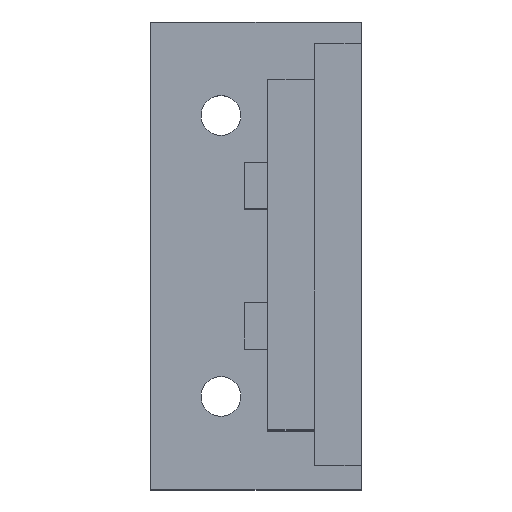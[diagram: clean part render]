
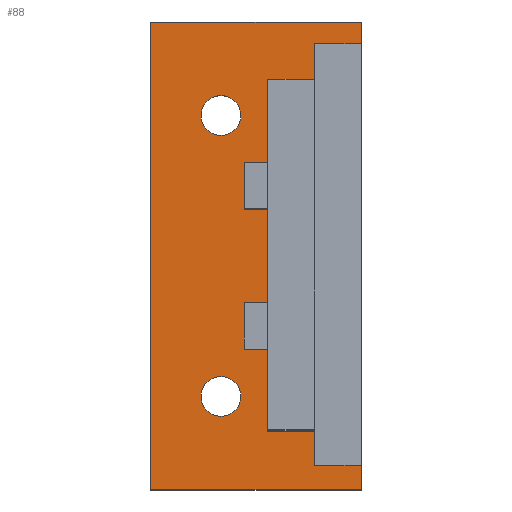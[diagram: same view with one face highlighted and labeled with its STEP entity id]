
A CAD part, top view. The second image highlights one B-rep face of the part: STEP entity #88.
In plain terms, the highlighted planar face has unit normal (0, 0, 1).
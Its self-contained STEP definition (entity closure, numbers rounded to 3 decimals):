
#24 = VERTEX_POINT('',#25);
#25 = CARTESIAN_POINT('',(0.,0.,4.));
#40 = VERTEX_POINT('',#41);
#41 = CARTESIAN_POINT('',(0.,40.,4.));
#47 = EDGE_CURVE('',#24,#40,#48,.T.);
#48 = LINE('',#49,#50);
#49 = CARTESIAN_POINT('',(0.,0.,4.));
#50 = VECTOR('',#51,1.);
#51 = DIRECTION('',(-0.,1.,0.));
#70 = EDGE_CURVE('',#24,#71,#73,.T.);
#71 = VERTEX_POINT('',#72);
#72 = CARTESIAN_POINT('',(18.,0.,4.));
#73 = LINE('',#74,#75);
#74 = CARTESIAN_POINT('',(0.,0.,4.));
#75 = VECTOR('',#76,1.);
#76 = DIRECTION('',(1.,0.,-0.));
#88 = ADVANCED_FACE('',(#89,#107,#118,#129),#227,.T.);
#89 = FACE_BOUND('',#90,.T.);
#90 = EDGE_LOOP('',(#91,#92,#93,#101));
#91 = ORIENTED_EDGE('',*,*,#47,.F.);
#92 = ORIENTED_EDGE('',*,*,#70,.T.);
#93 = ORIENTED_EDGE('',*,*,#94,.T.);
#94 = EDGE_CURVE('',#71,#95,#97,.T.);
#95 = VERTEX_POINT('',#96);
#96 = CARTESIAN_POINT('',(18.,40.,4.));
#97 = LINE('',#98,#99);
#98 = CARTESIAN_POINT('',(18.,0.,4.));
#99 = VECTOR('',#100,1.);
#100 = DIRECTION('',(-0.,1.,0.));
#101 = ORIENTED_EDGE('',*,*,#102,.F.);
#102 = EDGE_CURVE('',#40,#95,#103,.T.);
#103 = LINE('',#104,#105);
#104 = CARTESIAN_POINT('',(0.,40.,4.));
#105 = VECTOR('',#106,1.);
#106 = DIRECTION('',(1.,0.,-0.));
#107 = FACE_BOUND('',#108,.T.);
#108 = EDGE_LOOP('',(#109));
#109 = ORIENTED_EDGE('',*,*,#110,.F.);
#110 = EDGE_CURVE('',#111,#111,#113,.T.);
#111 = VERTEX_POINT('',#112);
#112 = CARTESIAN_POINT('',(7.7,8.,4.));
#113 = CIRCLE('',#114,1.7);
#114 = AXIS2_PLACEMENT_3D('',#115,#116,#117);
#115 = CARTESIAN_POINT('',(6.,8.,4.));
#116 = DIRECTION('',(0.,0.,1.));
#117 = DIRECTION('',(1.,0.,-0.));
#118 = FACE_BOUND('',#119,.T.);
#119 = EDGE_LOOP('',(#120));
#120 = ORIENTED_EDGE('',*,*,#121,.F.);
#121 = EDGE_CURVE('',#122,#122,#124,.T.);
#122 = VERTEX_POINT('',#123);
#123 = CARTESIAN_POINT('',(7.7,32.,4.));
#124 = CIRCLE('',#125,1.7);
#125 = AXIS2_PLACEMENT_3D('',#126,#127,#128);
#126 = CARTESIAN_POINT('',(6.,32.,4.));
#127 = DIRECTION('',(0.,0.,1.));
#128 = DIRECTION('',(1.,0.,-0.));
#129 = FACE_BOUND('',#130,.T.);
#130 = EDGE_LOOP('',(#131,#141,#149,#157,#165,#173,#181,#189,#197,#205,
    #213,#221));
#131 = ORIENTED_EDGE('',*,*,#132,.F.);
#132 = EDGE_CURVE('',#133,#135,#137,.T.);
#133 = VERTEX_POINT('',#134);
#134 = CARTESIAN_POINT('',(10.,5.,4.));
#135 = VERTEX_POINT('',#136);
#136 = CARTESIAN_POINT('',(16.,5.,4.));
#137 = LINE('',#138,#139);
#138 = CARTESIAN_POINT('',(14.,5.,4.));
#139 = VECTOR('',#140,1.);
#140 = DIRECTION('',(1.,0.,0.));
#141 = ORIENTED_EDGE('',*,*,#142,.T.);
#142 = EDGE_CURVE('',#133,#143,#145,.T.);
#143 = VERTEX_POINT('',#144);
#144 = CARTESIAN_POINT('',(10.,12.,4.));
#145 = LINE('',#146,#147);
#146 = CARTESIAN_POINT('',(10.,2.5,4.));
#147 = VECTOR('',#148,1.);
#148 = DIRECTION('',(-0.,1.,0.));
#149 = ORIENTED_EDGE('',*,*,#150,.T.);
#150 = EDGE_CURVE('',#143,#151,#153,.T.);
#151 = VERTEX_POINT('',#152);
#152 = CARTESIAN_POINT('',(8.,12.,4.));
#153 = LINE('',#154,#155);
#154 = CARTESIAN_POINT('',(4.,12.,4.));
#155 = VECTOR('',#156,1.);
#156 = DIRECTION('',(-1.,-0.,0.));
#157 = ORIENTED_EDGE('',*,*,#158,.T.);
#158 = EDGE_CURVE('',#151,#159,#161,.T.);
#159 = VERTEX_POINT('',#160);
#160 = CARTESIAN_POINT('',(8.,16.,4.));
#161 = LINE('',#162,#163);
#162 = CARTESIAN_POINT('',(8.,6.,4.));
#163 = VECTOR('',#164,1.);
#164 = DIRECTION('',(-0.,1.,0.));
#165 = ORIENTED_EDGE('',*,*,#166,.F.);
#166 = EDGE_CURVE('',#167,#159,#169,.T.);
#167 = VERTEX_POINT('',#168);
#168 = CARTESIAN_POINT('',(10.,16.,4.));
#169 = LINE('',#170,#171);
#170 = CARTESIAN_POINT('',(4.,16.,4.));
#171 = VECTOR('',#172,1.);
#172 = DIRECTION('',(-1.,-0.,0.));
#173 = ORIENTED_EDGE('',*,*,#174,.T.);
#174 = EDGE_CURVE('',#167,#175,#177,.T.);
#175 = VERTEX_POINT('',#176);
#176 = CARTESIAN_POINT('',(10.,24.,4.));
#177 = LINE('',#178,#179);
#178 = CARTESIAN_POINT('',(10.,2.5,4.));
#179 = VECTOR('',#180,1.);
#180 = DIRECTION('',(-0.,1.,0.));
#181 = ORIENTED_EDGE('',*,*,#182,.T.);
#182 = EDGE_CURVE('',#175,#183,#185,.T.);
#183 = VERTEX_POINT('',#184);
#184 = CARTESIAN_POINT('',(8.,24.,4.));
#185 = LINE('',#186,#187);
#186 = CARTESIAN_POINT('',(4.,24.,4.));
#187 = VECTOR('',#188,1.);
#188 = DIRECTION('',(-1.,-0.,0.));
#189 = ORIENTED_EDGE('',*,*,#190,.T.);
#190 = EDGE_CURVE('',#183,#191,#193,.T.);
#191 = VERTEX_POINT('',#192);
#192 = CARTESIAN_POINT('',(8.,28.,4.));
#193 = LINE('',#194,#195);
#194 = CARTESIAN_POINT('',(8.,12.,4.));
#195 = VECTOR('',#196,1.);
#196 = DIRECTION('',(-0.,1.,0.));
#197 = ORIENTED_EDGE('',*,*,#198,.F.);
#198 = EDGE_CURVE('',#199,#191,#201,.T.);
#199 = VERTEX_POINT('',#200);
#200 = CARTESIAN_POINT('',(10.,28.,4.));
#201 = LINE('',#202,#203);
#202 = CARTESIAN_POINT('',(4.,28.,4.));
#203 = VECTOR('',#204,1.);
#204 = DIRECTION('',(-1.,-0.,0.));
#205 = ORIENTED_EDGE('',*,*,#206,.T.);
#206 = EDGE_CURVE('',#199,#207,#209,.T.);
#207 = VERTEX_POINT('',#208);
#208 = CARTESIAN_POINT('',(10.,35.,4.));
#209 = LINE('',#210,#211);
#210 = CARTESIAN_POINT('',(10.,2.5,4.));
#211 = VECTOR('',#212,1.);
#212 = DIRECTION('',(-0.,1.,0.));
#213 = ORIENTED_EDGE('',*,*,#214,.F.);
#214 = EDGE_CURVE('',#215,#207,#217,.T.);
#215 = VERTEX_POINT('',#216);
#216 = CARTESIAN_POINT('',(16.,35.,4.));
#217 = LINE('',#218,#219);
#218 = CARTESIAN_POINT('',(5.,35.,4.));
#219 = VECTOR('',#220,1.);
#220 = DIRECTION('',(-1.,-0.,0.));
#221 = ORIENTED_EDGE('',*,*,#222,.F.);
#222 = EDGE_CURVE('',#135,#215,#223,.T.);
#223 = LINE('',#224,#225);
#224 = CARTESIAN_POINT('',(16.,5.,4.));
#225 = VECTOR('',#226,1.);
#226 = DIRECTION('',(0.,1.,0.));
#227 = PLANE('',#228);
#228 = AXIS2_PLACEMENT_3D('',#229,#230,#231);
#229 = CARTESIAN_POINT('',(0.,0.,4.));
#230 = DIRECTION('',(0.,0.,1.));
#231 = DIRECTION('',(1.,0.,-0.));
